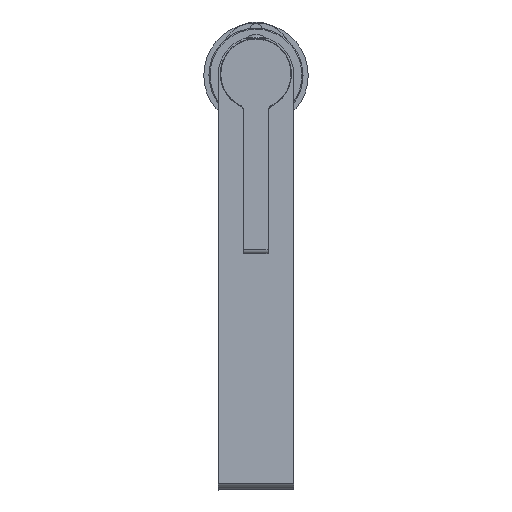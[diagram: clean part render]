
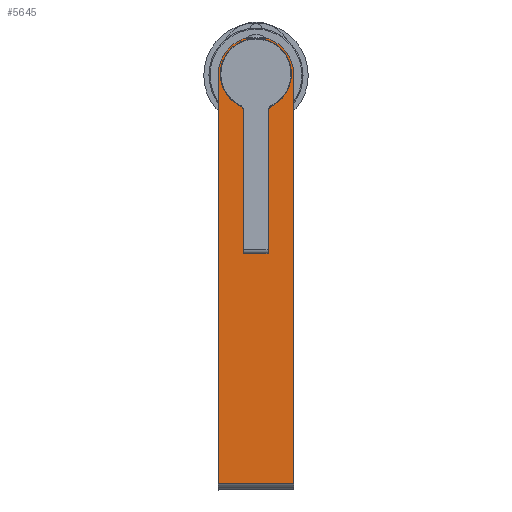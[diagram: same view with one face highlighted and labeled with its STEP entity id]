
A CAD part, top view. The second image highlights one B-rep face of the part: STEP entity #5645.
In plain terms, the highlighted planar face has unit normal (0, 0, 1).
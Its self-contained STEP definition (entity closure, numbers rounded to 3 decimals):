
#466=DIRECTION('',(0.,-1.,0.));
#467=VECTOR('',#466,55.78);
#468=CARTESIAN_POINT('',(1031.022,253.628,257.202));
#469=LINE('',#468,#467);
#470=DIRECTION('',(0.,-1.,0.));
#471=VECTOR('',#470,47.269);
#472=CARTESIAN_POINT('',(1031.022,197.848,257.202));
#473=LINE('',#472,#471);
#474=DIRECTION('',(0.,1.,0.));
#475=VECTOR('',#474,55.78);
#476=CARTESIAN_POINT('',(995.022,197.848,257.202));
#477=LINE('',#476,#475);
#478=CARTESIAN_POINT('',(1013.022,346.568,257.202));
#479=DIRECTION('',(0.,0.,-1.));
#480=DIRECTION('',(-1.,0.,0.));
#481=AXIS2_PLACEMENT_3D('',#478,#479,#480);
#483=CARTESIAN_POINT('',(1013.022,346.568,257.202));
#484=DIRECTION('',(0.,0.,1.));
#485=DIRECTION('',(0.,-1.,0.));
#486=AXIS2_PLACEMENT_3D('',#483,#484,#485);
#488=CARTESIAN_POINT('',(1013.022,346.568,257.202));
#489=DIRECTION('',(0.,0.,1.));
#490=DIRECTION('',(0.,1.,0.));
#491=AXIS2_PLACEMENT_3D('',#488,#489,#490);
#493=DIRECTION('',(0.,1.,0.));
#494=VECTOR('',#493,92.939);
#495=CARTESIAN_POINT('',(1031.022,253.628,257.202));
#496=LINE('',#495,#494);
#558=DIRECTION('',(0.,-1.,0.));
#559=VECTOR('',#558,92.938);
#560=CARTESIAN_POINT('',(995.022,346.566,257.202));
#561=LINE('',#560,#559);
#605=DIRECTION('',(0.,-1.,0.));
#606=VECTOR('',#605,47.269);
#607=CARTESIAN_POINT('',(995.022,197.848,257.202));
#608=LINE('',#607,#606);
#614=DIRECTION('',(1.,0.,0.));
#615=VECTOR('',#614,36.);
#616=CARTESIAN_POINT('',(995.022,150.579,257.202));
#617=LINE('',#616,#615);
#2441=CARTESIAN_POINT('',(995.022,150.579,257.202));
#2442=CARTESIAN_POINT('',(1031.022,150.579,257.202));
#2443=VERTEX_POINT('',#2441);
#2444=VERTEX_POINT('',#2442);
#2450=CARTESIAN_POINT('',(1031.022,253.628,257.202));
#2451=CARTESIAN_POINT('',(1031.022,346.567,257.202));
#2452=VERTEX_POINT('',#2450);
#2453=VERTEX_POINT('',#2451);
#2454=CARTESIAN_POINT('',(1031.022,197.848,257.202));
#2455=VERTEX_POINT('',#2454);
#2456=CARTESIAN_POINT('',(995.022,197.848,257.202));
#2457=VERTEX_POINT('',#2456);
#2458=CARTESIAN_POINT('',(995.022,253.628,257.202));
#2459=VERTEX_POINT('',#2458);
#2460=CARTESIAN_POINT('',(995.022,346.566,257.202));
#2461=VERTEX_POINT('',#2460);
#2462=CARTESIAN_POINT('',(1013.022,331.743,257.202));
#2463=CARTESIAN_POINT('',(1013.022,361.393,257.202));
#2464=VERTEX_POINT('',#2462);
#2465=VERTEX_POINT('',#2463);
#5617=CARTESIAN_POINT('',(1013.022,346.568,257.202));
#5618=DIRECTION('',(0.,0.,-1.));
#5619=DIRECTION('',(0.,-1.,0.));
#5620=AXIS2_PLACEMENT_3D('',#5617,#5618,#5619);
#5621=PLANE('',#5620);
#5623=ORIENTED_EDGE('',*,*,#5622,.F.);
#5625=ORIENTED_EDGE('',*,*,#5624,.T.);
#5627=ORIENTED_EDGE('',*,*,#5626,.T.);
#5629=ORIENTED_EDGE('',*,*,#5628,.F.);
#5631=ORIENTED_EDGE('',*,*,#5630,.F.);
#5633=ORIENTED_EDGE('',*,*,#5632,.T.);
#5635=ORIENTED_EDGE('',*,*,#5634,.F.);
#5637=ORIENTED_EDGE('',*,*,#5636,.T.);
#5638=EDGE_LOOP('',(#5623,#5625,#5627,#5629,#5631,#5633,#5635,#5637));
#5639=FACE_OUTER_BOUND('',#5638,.F.);
#5641=ORIENTED_EDGE('',*,*,#5640,.T.);
#5642=ORIENTED_EDGE('',*,*,#5607,.T.);
#5643=EDGE_LOOP('',(#5641,#5642));
#5644=FACE_BOUND('',#5643,.F.);
#482=CIRCLE('',#481,18.);
#487=CIRCLE('',#486,14.825);
#492=CIRCLE('',#491,14.825);
#5607=EDGE_CURVE('',#2465,#2464,#492,.T.);
#5622=EDGE_CURVE('',#2452,#2453,#496,.T.);
#5624=EDGE_CURVE('',#2452,#2455,#469,.T.);
#5626=EDGE_CURVE('',#2455,#2444,#473,.T.);
#5628=EDGE_CURVE('',#2443,#2444,#617,.T.);
#5630=EDGE_CURVE('',#2457,#2443,#608,.T.);
#5632=EDGE_CURVE('',#2457,#2459,#477,.T.);
#5634=EDGE_CURVE('',#2461,#2459,#561,.T.);
#5636=EDGE_CURVE('',#2461,#2453,#482,.T.);
#5640=EDGE_CURVE('',#2464,#2465,#487,.T.);
#5645=ADVANCED_FACE('',(#5639,#5644),#5621,.F.);
